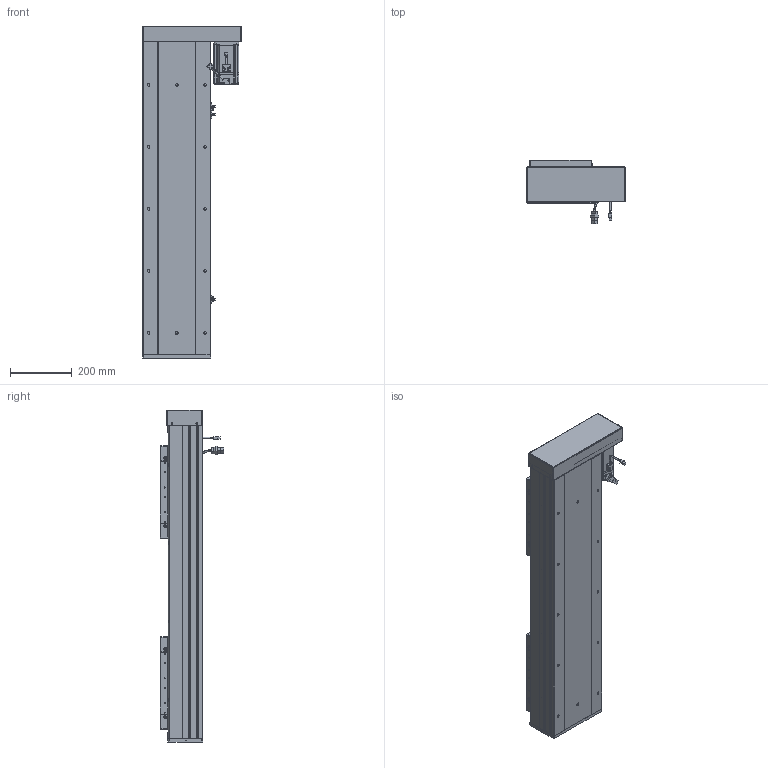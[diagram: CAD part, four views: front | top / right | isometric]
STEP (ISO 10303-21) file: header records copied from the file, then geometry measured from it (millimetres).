
FILE_DESCRIPTION (( 'STEP AP203' ), '1' );
FILE_NAME ('RY220F-L2525-300-RK.SLDASM_600.step', '2022-07-04T01:35:00', ( '' ), ( '' ), 'SwSTEP 2.0', 'SolidWorks 2016', '' );
FILE_SCHEMA (( 'CONFIG_CONTROL_DESIGN' ));
Length unit declared in the file: millimetre
Products named in the file (15): RY220F-L2525-300-RK.SLDASM_600; RY220F-672覜茼んえ; 怢湛750W_ECMA-CX0807ES; RY220F臏賑釱25-32佪裝; RY220F-詩湍揤踡輸; RY220F蛌殏菁釱-300_600; RY220F-滅鳥奻裔; RY220酘衵殏萇儂欶; RY220左右折电机安装板; RY220F-蛌殏奻裔啣-300_600; RY220F綴裔啣; 覜茼ん672; 滅袉蝶18-24; RY220F-祥凄詩湍-蛌殏-300_600; 侐源滅袉蝶
Assembly tree (24 placements, depth 2):
  RY220F-L2525-300-RK.SLDASM_600
    RY220F蛌殏菁釱-300_600
    RY220F-蛌殏奻裔啣-300_600  x2
    怢湛750W_ECMA-CX0807ES
    RY220F臏賑釱25-32佪裝  x2
    RY220F-滅鳥奻裔  x2
    滅袉蝶18-24  x3
    RY220F綴裔啣
    RY220F-祥凄詩湍-蛌殏-300_600
    RY220F-詩湍揤踡輸  x2
    覜茼ん672  x3
    RY220F-672覜茼んえ  x2
    RY220左右折电机安装板
    RY220酘衵殏萇儂欶
    侐源滅袉蝶  x2
Bounding box: 317.5 x 205.27 x 1071 mm (x, y, z)
Volume: 11811646.1 mm3; surface area: 3034420.8 mm2
Topology: 25 solids, 25 shells, 2672 faces, 7284 edges, 4532 vertices
Faces by surface type: cylinder 1194, plane 1044, cone 363, bspline 45, sphere 16, torus 10
Entity records: 66060 total; most frequent: CARTESIAN_POINT 18217, ORIENTED_EDGE 9702, DIRECTION 9328, EDGE_CURVE 4851, AXIS2_PLACEMENT_3D 3294, VERTEX_POINT 3148, VECTOR 2740, LINE 2740
